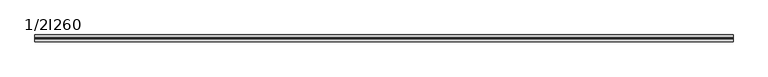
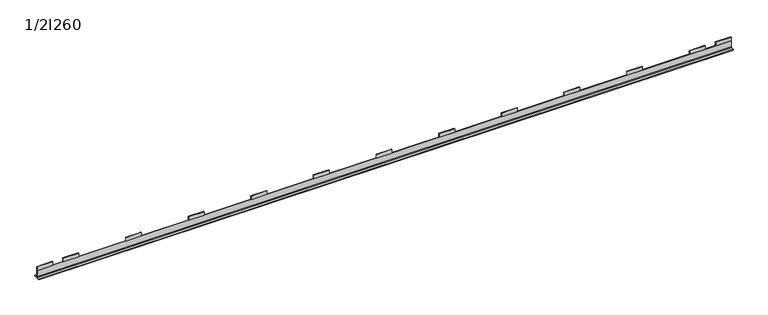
"""IFC4 building model written with IfcOpenShell, lengths in millimetres: beam geometry, Wzmocnienie do belek - dokładny podział : 1/2I260."""

from ifc_helpers import new_model, si_unit, point, frame, frame_2d, origin, place, context, project, spatial, polyline, circle_curve, trimmed, segment, composite_curve, outline, extrude, source, transform, mapped, element, save


def beam_1_2i260_985ffd1b(model_context):
    return source(origin(), model_context, "Body", "SweptSolid", [
        extrude(outline(polyline([(9474.0, -5.5), (9474.0, 5.5), (9724.0, 5.5), (9724.0, -5.5), (9474.0, -5.5)])), frame((0.0, 0.0, -60.0), z_axis=(0.0, 0.0, 1.0), x_axis=(1.0, 0.0, 0.0)), (0.0, 0.0, 1.0), 60.0),
        extrude(outline(polyline([(8468.0, -5.5), (8468.0, 5.5), (8718.0, 5.5), (8718.0, -5.5), (8468.0, -5.5)])), frame((0.0, 0.0, -60.0), z_axis=(0.0, 0.0, 1.0), x_axis=(1.0, 0.0, 0.0)), (0.0, 0.0, 1.0), 60.0),
        extrude(outline(polyline([(7462.0, -5.5), (7462.0, 5.5), (7712.0, 5.5), (7712.0, -5.5), (7462.0, -5.5)])), frame((0.0, 0.0, -60.0), z_axis=(0.0, 0.0, 1.0), x_axis=(1.0, 0.0, 0.0)), (0.0, 0.0, 1.0), 60.0),
        extrude(outline(polyline([(6456.0, -5.5), (6456.0, 5.5), (6706.0, 5.5), (6706.0, -5.5), (6456.0, -5.5)])), frame((0.0, 0.0, -60.0), z_axis=(0.0, 0.0, 1.0), x_axis=(1.0, 0.0, 0.0)), (0.0, 0.0, 1.0), 60.0),
        extrude(outline(polyline([(5450.0, -5.5), (5450.0, 5.5), (5700.0, 5.5), (5700.0, -5.5), (5450.0, -5.5)])), frame((0.0, 0.0, -60.0), z_axis=(0.0, 0.0, 1.0), x_axis=(1.0, 0.0, 0.0)), (0.0, 0.0, 1.0), 60.0),
        extrude(outline(polyline([(4444.0, -5.5), (4444.0, 5.5), (4694.0, 5.5), (4694.0, -5.5), (4444.0, -5.5)])), frame((0.0, 0.0, -60.0), z_axis=(0.0, 0.0, 1.0), x_axis=(1.0, 0.0, 0.0)), (0.0, 0.0, 1.0), 60.0),
        extrude(outline(polyline([(3438.0, -5.5), (3438.0, 5.5), (3688.0, 5.5), (3688.0, -5.5), (3438.0, -5.5)])), frame((0.0, 0.0, -60.0), z_axis=(0.0, 0.0, 1.0), x_axis=(1.0, 0.0, 0.0)), (0.0, 0.0, 1.0), 60.0),
        extrude(outline(polyline([(2432.0, -5.5), (2432.0, 5.5), (2682.0, 5.5), (2682.0, -5.5), (2432.0, -5.5)])), frame((0.0, 0.0, -60.0), z_axis=(0.0, 0.0, 1.0), x_axis=(1.0, 0.0, 0.0)), (0.0, 0.0, 1.0), 60.0),
        extrude(outline(polyline([(1426.0, -5.5), (1426.0, 5.5), (1676.0, 5.5), (1676.0, -5.5), (1426.0, -5.5)])), frame((0.0, 0.0, -60.0), z_axis=(0.0, 0.0, 1.0), x_axis=(1.0, 0.0, 0.0)), (0.0, 0.0, 1.0), 60.0),
        extrude(outline(polyline([(10480.0, -5.5), (10480.0, 5.5), (10730.0, 5.5), (10730.0, -5.5), (10480.0, -5.5)])), frame((0.0, 0.0, -60.0), z_axis=(0.0, 0.0, 1.0), x_axis=(1.0, 0.0, 0.0)), (0.0, 0.0, 1.0), 60.0),
        extrude(outline(polyline([(420.0, -5.5), (420.0, 5.5), (670.0, 5.5), (670.0, -5.5), (420.0, -5.5)])), frame((0.0, 0.0, -60.0), z_axis=(0.0, 0.0, 1.0), x_axis=(1.0, 0.0, 0.0)), (0.0, 0.0, 1.0), 60.0),
        extrude(outline(polyline([(10900.0, -5.5), (10900.0, 5.5), (11150.0, 5.5), (11150.0, -5.5), (10900.0, -5.5)])), frame((0.0, 0.0, -60.0), z_axis=(0.0, 0.0, 1.0), x_axis=(1.0, 0.0, 0.0)), (0.0, 0.0, 1.0), 60.0),
        extrude(outline(polyline([(0.0, -5.5), (0.0, 5.5), (250.0, 5.5), (250.0, -5.5), (0.0, -5.5)])), frame((0.0, 0.0, -60.0), z_axis=(0.0, 0.0, 1.0), x_axis=(1.0, 0.0, 0.0)), (0.0, 0.0, 1.0), 60.0),
        extrude(outline(composite_curve([segment(polyline([(56.5, -190.0), (-56.5, -190.0), (-56.5, -175.9), (-14.1, -175.9)]), True, "CONTINUOUS"), segment(trimmed(circle_curve(frame_2d((-14.1, -166.5)), 9.4), [point((-14.1, -175.9))], [point((-4.7, -166.5))], True, "CARTESIAN"), True, "CONTINUOUS"), segment(polyline([(-4.7, -166.5), (-4.7, -60.0), (4.7, -60.0), (4.7, -166.5)]), True, "CONTINUOUS"), segment(trimmed(circle_curve(frame_2d((14.1, -166.5)), 9.4), [point((4.7, -166.5))], [point((14.1, -175.9))], True, "CARTESIAN"), True, "CONTINUOUS"), segment(polyline([(14.1, -175.9), (56.5, -175.9), (56.5, -190.0)]), True, "CONTINUOUS")], self_intersect=False)), frame((0.0, 0.0, 0.0), z_axis=(1.0, 0.0, 0.0), x_axis=(0.0, 1.0, 0.0)), (0.0, 0.0, 1.0), 11150.0),
    ])


if __name__ == "__main__":
    model = new_model("IFC4")
    model_context = context("Model", 3, world=origin())
    ifc_project = project(units=[si_unit("LENGTHUNIT", "METRE", prefix="MILLI")], contexts=[model_context])
    site = spatial("IfcSite", under=ifc_project)
    building = spatial("IfcBuilding", under=site)
    placement = place(None, origin())
    beam_1_2i260_shape = beam_1_2i260_985ffd1b(model_context)
    element("IfcBeam", 1, ObjectType="Wzmocnienie do belek - dokładny podział : 1/2I260", at=placement, inside=building, context=model_context, shape_type="MappedRepresentation", body=[
        mapped(beam_1_2i260_shape, transform((0.0, 0.0, 0.0), x_axis=(1.0, 0.0, 0.0), y_axis=(0.0, 1.0, 0.0), z_axis=(0.0, 0.0, 1.0))),
    ])
    save(model, "model.ifc")
